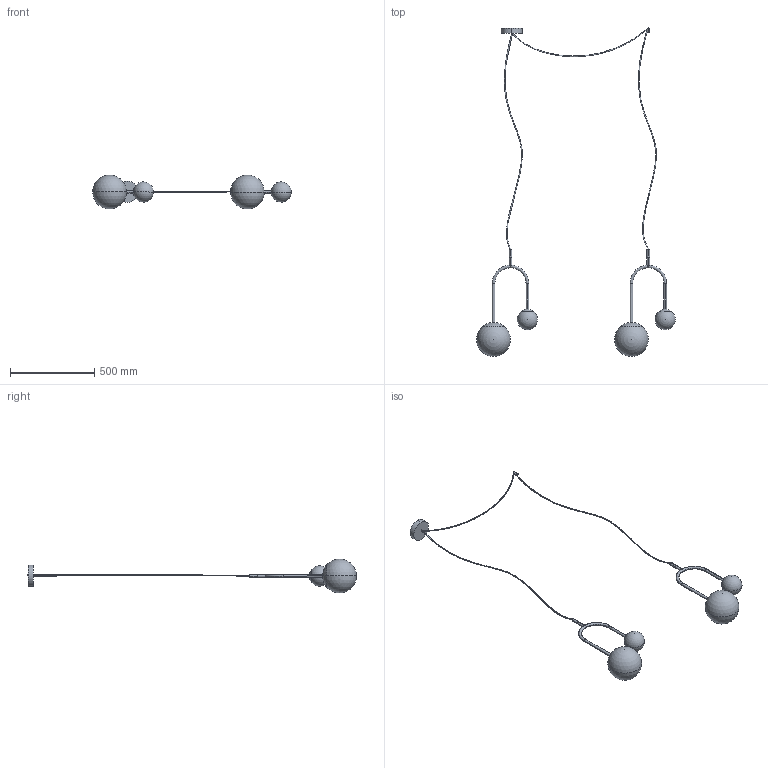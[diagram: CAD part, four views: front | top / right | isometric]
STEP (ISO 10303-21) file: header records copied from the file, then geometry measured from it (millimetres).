
FILE_DESCRIPTION (( 'STEP AP203' ), '1' );
FILE_NAME ('DEC02_Decor 2 sospensione.STEP', '2024-08-06T08:41:01', ( '' ), ( '' ), 'SwSTEP 2.0', 'SolidWorks 2022', '' );
FILE_SCHEMA (( 'CONFIG_CONTROL_DESIGN' ));
Length unit declared in the file: millimetre
Products named in the file (2): DEC02_Decor 2 sospensione; SOSPENSIONE7_decor sospensione 2
Assembly tree (1 placements, depth 2):
  DEC02_Decor 2 sospensione
    SOSPENSIONE7_decor sospensione 2
Bounding box: 1176.09 x 1947.15 x 200 mm (x, y, z)
Volume: 10949066.2 mm3; surface area: 508269.4 mm2
Topology: 4 solids, 4 shells, 80 faces, 189 edges, 118 vertices
Faces by surface type: cylinder 20, bspline 19, sphere 16, plane 16, cone 9
Entity records: 5840 total; most frequent: CARTESIAN_POINT 4116, ORIENTED_EDGE 338, DIRECTION 284, EDGE_CURVE 169, AXIS2_PLACEMENT_3D 127, VERTEX_POINT 106, EDGE_LOOP 89, ADVANCED_FACE 80
